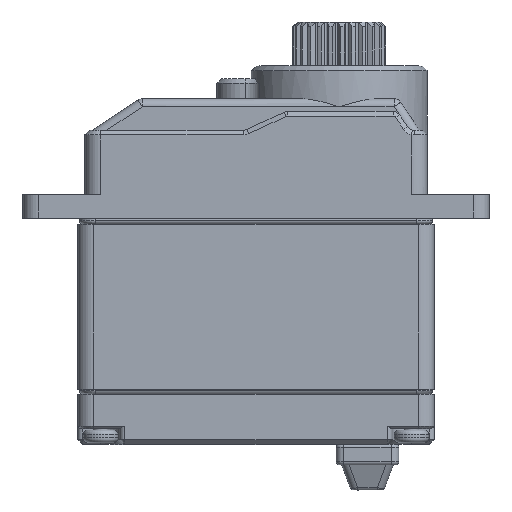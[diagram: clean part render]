
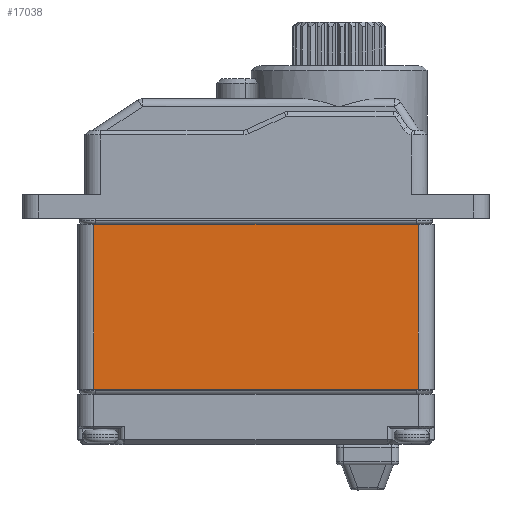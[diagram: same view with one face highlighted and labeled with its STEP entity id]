
A CAD part, top view. The second image highlights one B-rep face of the part: STEP entity #17038.
In plain terms, the highlighted planar face has unit normal (0, 0, 1).
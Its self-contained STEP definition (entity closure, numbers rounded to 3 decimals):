
#5755=DIRECTION('',(-1.,0.,0.));
#5756=VECTOR('',#5755,20.7);
#5757=CARTESIAN_POINT('',(10.35,0.,6.1));
#5758=LINE('',#5757,#5756);
#5932=DIRECTION('',(0.,-1.,0.));
#5933=VECTOR('',#5932,10.5);
#5934=CARTESIAN_POINT('',(-10.35,0.,6.1));
#5935=LINE('',#5934,#5933);
#5936=DIRECTION('',(-1.,0.,0.));
#5937=VECTOR('',#5936,20.7);
#5938=CARTESIAN_POINT('',(10.35,-10.5,6.1));
#5939=LINE('',#5938,#5937);
#5940=DIRECTION('',(0.,1.,0.));
#5941=VECTOR('',#5940,10.5);
#5942=CARTESIAN_POINT('',(10.35,-10.5,6.1));
#5943=LINE('',#5942,#5941);
#9456=CARTESIAN_POINT('',(-10.35,-10.5,6.1));
#9457=VERTEX_POINT('',#9456);
#9458=CARTESIAN_POINT('',(10.35,-10.5,6.1));
#9459=VERTEX_POINT('',#9458);
#9476=CARTESIAN_POINT('',(10.35,0.,6.1));
#9477=VERTEX_POINT('',#9476);
#9478=CARTESIAN_POINT('',(-10.35,0.,6.1));
#9479=VERTEX_POINT('',#9478);
#17026=CARTESIAN_POINT('',(-10.35,-10.5,6.1));
#17027=DIRECTION('',(0.,0.,1.));
#17028=DIRECTION('',(1.,0.,0.));
#17029=AXIS2_PLACEMENT_3D('',#17026,#17027,#17028);
#17030=PLANE('',#17029);
#17031=ORIENTED_EDGE('',*,*,#16927,.T.);
#17032=ORIENTED_EDGE('',*,*,#17021,.F.);
#17033=ORIENTED_EDGE('',*,*,#16883,.F.);
#17035=ORIENTED_EDGE('',*,*,#17034,.F.);
#17036=EDGE_LOOP('',(#17031,#17032,#17033,#17035));
#17037=FACE_OUTER_BOUND('',#17036,.F.);
#16883=EDGE_CURVE('',#9477,#9479,#5758,.T.);
#16927=EDGE_CURVE('',#9459,#9457,#5939,.T.);
#17021=EDGE_CURVE('',#9479,#9457,#5935,.T.);
#17034=EDGE_CURVE('',#9459,#9477,#5943,.T.);
#17038=ADVANCED_FACE('',(#17037),#17030,.T.);
